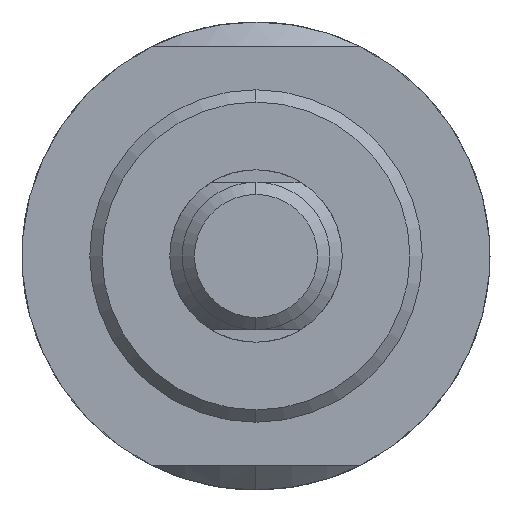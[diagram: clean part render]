
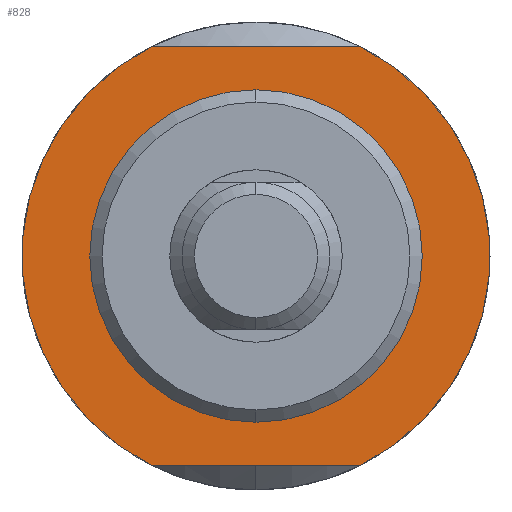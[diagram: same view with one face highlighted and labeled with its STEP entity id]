
A CAD part, left-side view. The second image highlights one B-rep face of the part: STEP entity #828.
In plain terms, the highlighted planar face has unit normal (-1, 0, 0).
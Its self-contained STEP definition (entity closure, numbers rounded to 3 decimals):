
#42 = LINE ( 'NONE', #1569, #1392 ) ;
#120 = CARTESIAN_POINT ( 'NONE',  ( 48., 0., 13.5 ) ) ;
#174 = AXIS2_PLACEMENT_3D ( 'NONE', #478, #584, #1854 ) ;
#180 = CARTESIAN_POINT ( 'NONE',  ( 48., 8.485, 17. ) ) ;
#199 = DIRECTION ( 'NONE',  ( -1., 0., 0. ) ) ;
#230 = AXIS2_PLACEMENT_3D ( 'NONE', #1924, #199, #1102 ) ;
#266 = VECTOR ( 'NONE', #494, 1000. ) ;
#275 = VERTEX_POINT ( 'NONE', #714 ) ;
#344 = DIRECTION ( 'NONE',  ( 0., 0., 1. ) ) ;
#359 = CIRCLE ( 'NONE', #1458, 19. ) ;
#378 = LINE ( 'NONE', #600, #266 ) ;
#436 = AXIS2_PLACEMENT_3D ( 'NONE', #1702, #1492, #1215 ) ;
#454 = CIRCLE ( 'NONE', #647, 13.5 ) ;
#478 = CARTESIAN_POINT ( 'NONE',  ( 48., 0., 0. ) ) ;
#494 = DIRECTION ( 'NONE',  ( 0., -1., 0. ) ) ;
#509 = PLANE ( 'NONE',  #436 ) ;
#528 = CIRCLE ( 'NONE', #174, 13.5 ) ;
#584 = DIRECTION ( 'NONE',  ( -1., 0., 0. ) ) ;
#590 = EDGE_LOOP ( 'NONE', ( #1031, #824 ) ) ;
#600 = CARTESIAN_POINT ( 'NONE',  ( 48., 15., 17. ) ) ;
#647 = AXIS2_PLACEMENT_3D ( 'NONE', #730, #1987, #344 ) ;
#651 = VERTEX_POINT ( 'NONE', #120 ) ;
#714 = CARTESIAN_POINT ( 'NONE',  ( 48., -8.485, -17. ) ) ;
#730 = CARTESIAN_POINT ( 'NONE',  ( 48., 0., 0. ) ) ;
#732 = ORIENTED_EDGE ( 'NONE', *, *, #1697, .F. ) ;
#787 = CARTESIAN_POINT ( 'NONE',  ( 48., 0., 0. ) ) ;
#824 = ORIENTED_EDGE ( 'NONE', *, *, #972, .F. ) ;
#828 = ADVANCED_FACE ( 'NONE', ( #1329, #1370 ), #509, .F. ) ;
#913 = DIRECTION ( 'NONE',  ( 0., 1., 0. ) ) ;
#944 = DIRECTION ( 'NONE',  ( 0., 0., 1. ) ) ;
#972 = EDGE_CURVE ( 'NONE', #1529, #651, #528, .T. ) ;
#1026 = ORIENTED_EDGE ( 'NONE', *, *, #1882, .T. ) ;
#1031 = ORIENTED_EDGE ( 'NONE', *, *, #1965, .F. ) ;
#1057 = VERTEX_POINT ( 'NONE', #1919 ) ;
#1102 = DIRECTION ( 'NONE',  ( 0., 0., 1. ) ) ;
#1203 = CARTESIAN_POINT ( 'NONE',  ( 48., 0., -13.5 ) ) ;
#1215 = DIRECTION ( 'NONE',  ( 0., 0., -1. ) ) ;
#1303 = VERTEX_POINT ( 'NONE', #1990 ) ;
#1329 = FACE_BOUND ( 'NONE', #590, .T. ) ;
#1370 = FACE_OUTER_BOUND ( 'NONE', #1502, .T. ) ;
#1381 = DIRECTION ( 'NONE',  ( -1., 0., 0. ) ) ;
#1392 = VECTOR ( 'NONE', #913, 1000. ) ;
#1433 = ORIENTED_EDGE ( 'NONE', *, *, #1664, .T. ) ;
#1438 = VERTEX_POINT ( 'NONE', #180 ) ;
#1458 = AXIS2_PLACEMENT_3D ( 'NONE', #787, #1381, #944 ) ;
#1492 = DIRECTION ( 'NONE',  ( 1., 0., 0. ) ) ;
#1502 = EDGE_LOOP ( 'NONE', ( #1433, #1814, #1026, #732 ) ) ;
#1529 = VERTEX_POINT ( 'NONE', #1203 ) ;
#1569 = CARTESIAN_POINT ( 'NONE',  ( 48., 15., -17. ) ) ;
#1664 = EDGE_CURVE ( 'NONE', #1438, #1057, #359, .T. ) ;
#1697 = EDGE_CURVE ( 'NONE', #1438, #1303, #378, .T. ) ;
#1702 = CARTESIAN_POINT ( 'NONE',  ( 48., 0., -19. ) ) ;
#1781 = CIRCLE ( 'NONE', #230, 19. ) ;
#1814 = ORIENTED_EDGE ( 'NONE', *, *, #1998, .F. ) ;
#1854 = DIRECTION ( 'NONE',  ( 0., 0., 1. ) ) ;
#1882 = EDGE_CURVE ( 'NONE', #275, #1303, #1781, .T. ) ;
#1919 = CARTESIAN_POINT ( 'NONE',  ( 48., 8.485, -17. ) ) ;
#1924 = CARTESIAN_POINT ( 'NONE',  ( 48., 0., 0. ) ) ;
#1965 = EDGE_CURVE ( 'NONE', #651, #1529, #454, .T. ) ;
#1987 = DIRECTION ( 'NONE',  ( -1., 0., 0. ) ) ;
#1990 = CARTESIAN_POINT ( 'NONE',  ( 48., -8.485, 17. ) ) ;
#1998 = EDGE_CURVE ( 'NONE', #275, #1057, #42, .T. ) ;
